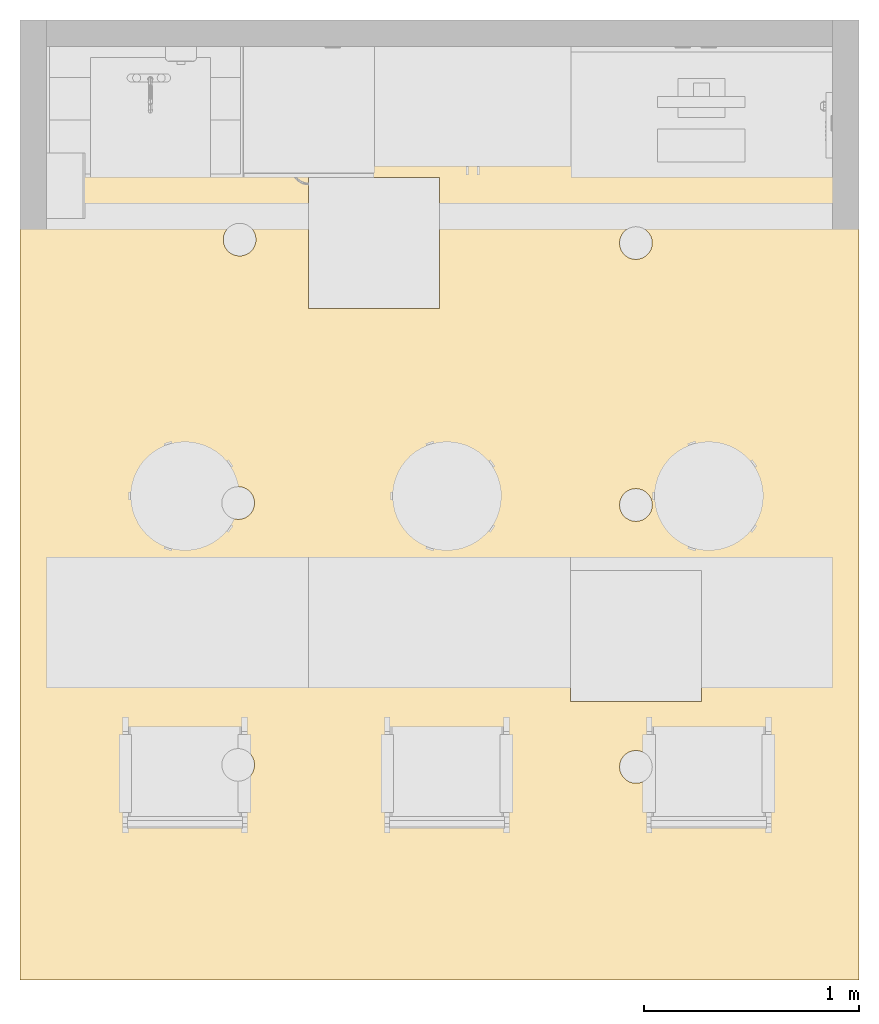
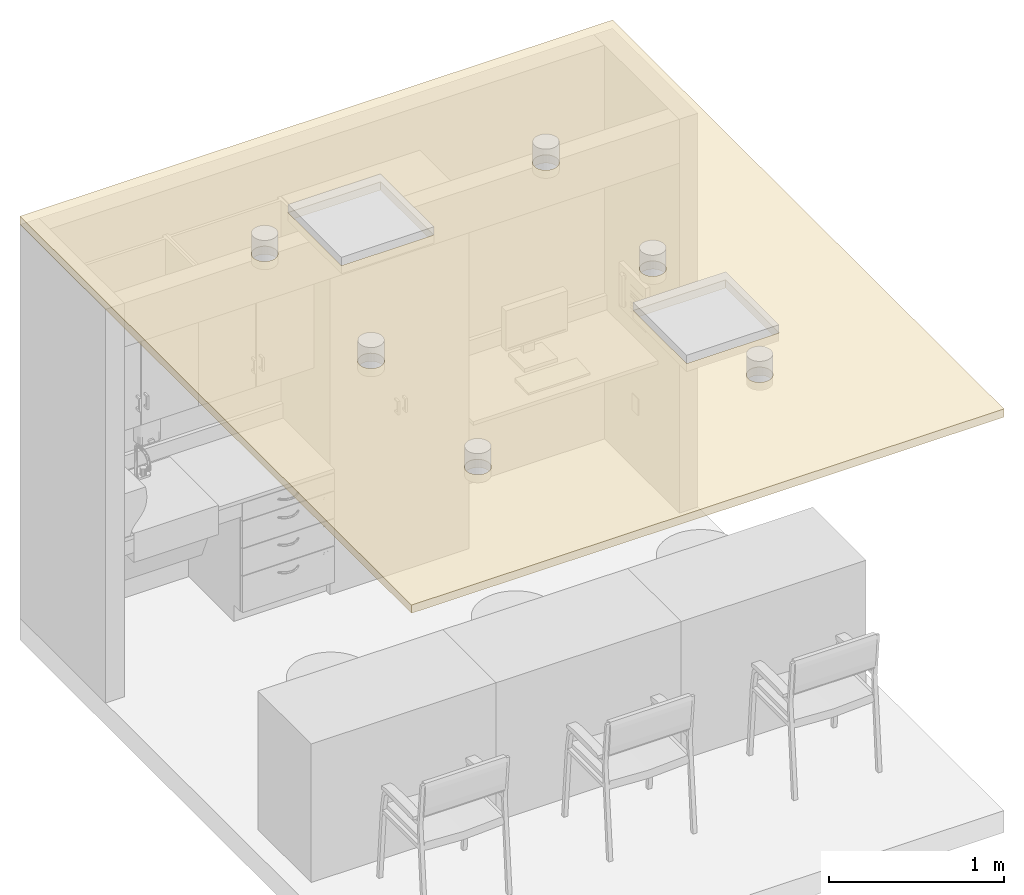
# One storey, part 2 of 8: 1 covering.
"""IFC2X3 building model written with IfcOpenShell, lengths in feet."""

from ifc_helpers import new_model, entity, si_unit, converted_unit, derived_unit, direction, frame, frame_2d, origin, place, context, subcontext, project, spatial, polyline, circle_curve, parameter, trimmed, segment, composite_curve, outline, extrude, material, layer, layer_set, layer_usage, element, save


model = new_model("IFC2X3")

# Units and contexts
model_context = context("Model", 3, precision=0.0001, world=origin(), true_north=direction((6.12303176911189e-17, 1.0)))
body_context = subcontext(model_context, "Body", "Model", "MODEL_VIEW")
ifc_project = project(units=[converted_unit("LENGTHUNIT", "FOOT", entity("IfcRatioMeasure", 0.3048), si_unit("LENGTHUNIT", "METRE"), dimensions=[1, 0, 0, 0, 0, 0, 0]), converted_unit("AREAUNIT", "SQUARE FOOT", entity("IfcRatioMeasure", 0.09290304), si_unit("AREAUNIT", "SQUARE_METRE"), dimensions=[2, 0, 0, 0, 0, 0, 0]), converted_unit("VOLUMEUNIT", "CUBIC FOOT", entity("IfcRatioMeasure", 0.028316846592), si_unit("VOLUMEUNIT", "CUBIC_METRE"), dimensions=[3, 0, 0, 0, 0, 0, 0]), converted_unit("PLANEANGLEUNIT", "DEGREE", entity("IfcRatioMeasure", 0.0174532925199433), si_unit("PLANEANGLEUNIT", "RADIAN"), dimensions=[0, 0, 0, 0, 0, 0, 0]), si_unit("MASSUNIT", "GRAM", prefix="KILO"), derived_unit("MASSDENSITYUNIT", [(si_unit("MASSUNIT", "GRAM", prefix="KILO"), 1), (si_unit("LENGTHUNIT", "METRE"), -3)]), si_unit("TIMEUNIT", "SECOND"), si_unit("FREQUENCYUNIT", "HERTZ"), si_unit("THERMODYNAMICTEMPERATUREUNIT", "DEGREE_CELSIUS"), derived_unit("THERMALTRANSMITTANCEUNIT", [(si_unit("MASSUNIT", "GRAM", prefix="KILO"), 1), (si_unit("THERMODYNAMICTEMPERATUREUNIT", "KELVIN"), -1), (si_unit("TIMEUNIT", "SECOND"), -3)]), derived_unit("VOLUMETRICFLOWRATEUNIT", [(si_unit("LENGTHUNIT", "METRE"), 3), (si_unit("TIMEUNIT", "SECOND"), -1)]), si_unit("ELECTRICCURRENTUNIT", "AMPERE"), si_unit("ELECTRICVOLTAGEUNIT", "VOLT"), si_unit("POWERUNIT", "WATT"), si_unit("FORCEUNIT", "NEWTON"), si_unit("ILLUMINANCEUNIT", "LUX"), si_unit("LUMINOUSFLUXUNIT", "LUMEN"), si_unit("LUMINOUSINTENSITYUNIT", "CANDELA"), derived_unit("USERDEFINED", [(si_unit("MASSUNIT", "GRAM", prefix="KILO"), -1), (si_unit("LENGTHUNIT", "METRE"), -2), (si_unit("TIMEUNIT", "SECOND"), 3), (si_unit("LUMINOUSFLUXUNIT", "LUMEN"), 1)]), derived_unit("LINEARVELOCITYUNIT", [(si_unit("LENGTHUNIT", "METRE"), 1), (si_unit("TIMEUNIT", "SECOND"), -1)]), si_unit("PRESSUREUNIT", "PASCAL"), derived_unit("USERDEFINED", [(si_unit("LENGTHUNIT", "METRE"), -2), (si_unit("MASSUNIT", "GRAM", prefix="KILO"), 1), (si_unit("TIMEUNIT", "SECOND"), -2)])], contexts=[model_context])

# Site, building, storey
site_placement = place(None, origin())
site = spatial("IfcSite", under=ifc_project, at=site_placement, Name="Default", CompositionType="ELEMENT")
building_placement = place(site_placement, origin())
building = spatial("IfcBuilding", under=site, at=building_placement, Name="EYE CLINIC:  OPTHALMOLOGY AND OPTOMETRY SERVICES (Ch. 233)", CompositionType="ELEMENT")
storey_placement = place(building_placement, origin())
storey = spatial("IfcBuildingStorey", under=building, at=storey_placement, Name="DATUM", CompositionType="ELEMENT", Elevation=0.0)

# Covering
ifc_material_1 = material(Name="Default")
ifc_layer_1 = layer(ifc_material_1, 0.135416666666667)
ifc_material_2 = material(Name="Acoustic Ceiling Tile 24 x 24")
ifc_layer_2 = layer(ifc_material_2, 0.0520833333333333)
ifc_layer_set = layer_set([ifc_layer_1, ifc_layer_2], Name="Compound Ceiling:2' x 2' ACT System")
ifc_layer_usage = layer_usage(ifc_layer_set, "AXIS3", "POSITIVE", 0.0)
covering_placement = place(storey_placement, origin())
element("IfcCovering", 1, at=covering_placement, inside=storey, material=ifc_layer_usage, Name="Compound Ceiling:2' x 2' ACT System", ObjectType="Compound Ceiling:2' x 2' ACT System", PredefinedType="CEILING", context=body_context, shape_type="SweptSolid", body=[
    extrude(outline(polyline([(-7.33072916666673, -6.40625), (7.33072916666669, -6.40625), (7.33072916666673, 6.40625), (-7.33072916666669, 6.40625), (-7.33072916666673, -6.40625)]), holes=[composite_curve([segment(trimmed(circle_curve(frame_2d((-0.0761625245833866, -3.00064169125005), x_axis=(0.0, -1.0)), 0.25), [parameter(180.0)], [parameter(360.0)], True, "PARAMETER"), False, "CONTINUOUS"), segment(trimmed(circle_curve(frame_2d((-0.0761625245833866, -3.00064169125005), x_axis=(0.0, -1.0)), 0.25), [parameter(0.0)], [parameter(180.0)], True, "PARAMETER"), False, "CONTINUOUS")], self_intersect=False), composite_curve([segment(trimmed(circle_curve(frame_2d((-0.0461069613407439, 3.07441564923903), x_axis=(0.0, -1.0)), 0.25), [parameter(180.0)], [parameter(360.0)], True, "PARAMETER"), False, "CONTINUOUS"), segment(trimmed(circle_curve(frame_2d((-0.0461069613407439, 3.07441564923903), x_axis=(0.0, -1.0)), 0.25), [parameter(0.0)], [parameter(180.0)], True, "PARAMETER"), False, "CONTINUOUS")], self_intersect=False), composite_curve([segment(trimmed(circle_curve(frame_2d((3.92447916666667, -3.0), x_axis=(0.0, -1.0)), 0.25), [parameter(180.0)], [parameter(359.999999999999)], True, "PARAMETER"), False, "CONTINUOUS"), segment(trimmed(circle_curve(frame_2d((3.92447916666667, -3.0), x_axis=(0.0, -1.0)), 0.25), [parameter(0.0)], [parameter(180.0)], True, "PARAMETER"), False, "CONTINUOUS")], self_intersect=False), composite_curve([segment(trimmed(circle_curve(frame_2d((3.97656250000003, 3.05208333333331), x_axis=(0.0, -1.0)), 0.25), [parameter(180.0)], [parameter(359.999999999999)], True, "PARAMETER"), False, "CONTINUOUS"), segment(trimmed(circle_curve(frame_2d((3.97656250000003, 3.05208333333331), x_axis=(0.0, -1.0)), 0.25), [parameter(0.0)], [parameter(180.0)], True, "PARAMETER"), False, "CONTINUOUS")], self_intersect=False), polyline([(2.92447916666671, 2.0), (4.92447916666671, 2.0), (4.92447916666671, 0.0), (2.92447916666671, 0.0), (2.92447916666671, 2.0)]), polyline([(-3.0755208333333, -2.0), (-1.0755208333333, -2.0), (-1.0755208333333, -4.0), (-3.0755208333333, -4.0), (-3.0755208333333, -2.0)]), composite_curve([segment(trimmed(circle_curve(frame_2d((-4.07616252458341, -3.00064169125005), x_axis=(0.0, -1.0)), 0.25), [parameter(180.0)], [parameter(360.0)], True, "PARAMETER"), False, "CONTINUOUS"), segment(trimmed(circle_curve(frame_2d((-4.07616252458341, -3.00064169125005), x_axis=(0.0, -1.0)), 0.25), [parameter(0.0)], [parameter(180.0)], True, "PARAMETER"), False, "CONTINUOUS")], self_intersect=False), composite_curve([segment(trimmed(circle_curve(frame_2d((-4.04610696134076, 3.07441564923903), x_axis=(0.0, -1.0)), 0.25), [parameter(180.0)], [parameter(360.0)], True, "PARAMETER"), False, "CONTINUOUS"), segment(trimmed(circle_curve(frame_2d((-4.04610696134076, 3.07441564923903), x_axis=(0.0, -1.0)), 0.25), [parameter(0.0)], [parameter(180.0)], True, "PARAMETER"), False, "CONTINUOUS")], self_intersect=False)]), frame((385.563539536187, 4.80480709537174, 9.0), z_axis=(0.0, 0.0, 1.0), x_axis=(0.0, 1.0, 0.0)), (0.0, 0.0, 1.0), 0.1875),
])

save(model, "model.ifc")
